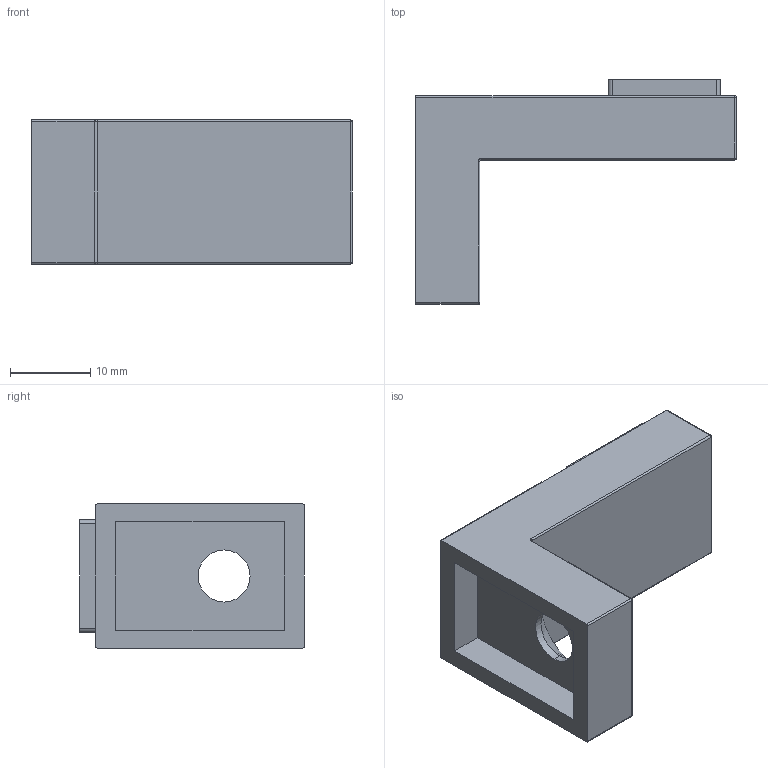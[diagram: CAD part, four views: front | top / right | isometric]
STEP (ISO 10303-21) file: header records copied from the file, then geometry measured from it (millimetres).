
FILE_DESCRIPTION (( 'STEP AP203' ), '1' );
FILE_NAME ('3D_GG4022_Flach_188758980.STEP', '2024-11-04T14:40:17', ( '' ), ( '' ), 'SwSTEP 2.0', 'SolidWorks 2023', '' );
FILE_SCHEMA (( 'CONFIG_CONTROL_DESIGN' ));
Length unit declared in the file: millimetre
Products named in the file (1): 3D_GG4022_Flach_188758980
Bounding box: 40 x 28 x 18 mm (x, y, z)
Volume: 7343.9 mm3; surface area: 4050.7 mm2
Topology: 2 solids, 2 shells, 49 faces, 114 edges, 64 vertices
Faces by surface type: cylinder 20, plane 19, sphere 6, cone 2, torus 2
Entity records: 1413 total; most frequent: DIRECTION 252, CARTESIAN_POINT 222, ORIENTED_EDGE 216, EDGE_CURVE 108, AXIS2_PLACEMENT_3D 94, VECTOR 64, LINE 64, VERTEX_POINT 64
